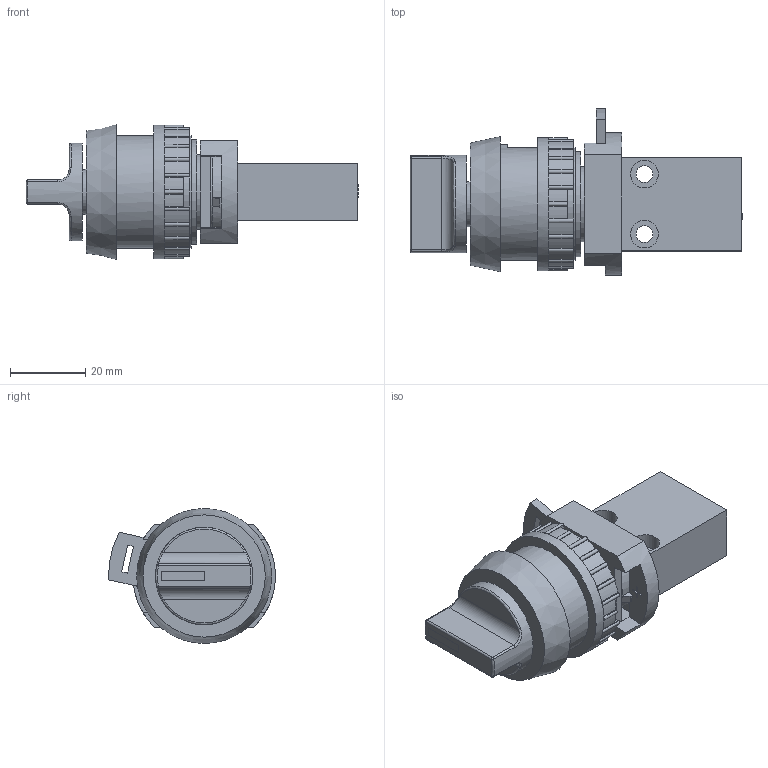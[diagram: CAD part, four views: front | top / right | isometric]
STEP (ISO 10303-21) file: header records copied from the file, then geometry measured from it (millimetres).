
FILE_DESCRIPTION (( 'STEP AP214' ), '1' );
FILE_NAME ('18-T-30-013---T-25-311_Airtec.step', '2018-11-15T13:14:28', ( '' ), ( '' ), 'SwSTEP 2.0', 'SolidWorks 2010', '' );
FILE_SCHEMA (( 'AUTOMOTIVE_DESIGN' ));
Length unit declared in the file: millimetre
Products named in the file (3): 18-T-30-013-Airtec; T-25-311_161206; 18-T-30-013---T-25-311_Airtec
Assembly tree (2 placements, depth 2):
  18-T-30-013---T-25-311_Airtec
    18-T-30-013-Airtec
    T-25-311_161206
Bounding box: 88.5 x 44.48 x 36 mm (x, y, z)
Volume: 46753.3 mm3; surface area: 16834.9 mm2
Topology: 2 solids, 2 shells, 410 faces, 1102 edges, 703 vertices
Faces by surface type: plane 186, cylinder 154, cone 44, torus 13, bspline 12, sphere 1
Full cylindrical faces by diameter (mm): 2.693 x2, 3.2 x2, 4.134 x2, 4.5 x2, 5.7 x2, 6 x1, 7.4 x4, 10 x1, 12 x1, 16 x1, 20 x1, 20.3 x1, 26 x1, 28 x1, 30 x2, 35.5 x1
Entity records: 13605 total; most frequent: CARTESIAN_POINT 3360, DIRECTION 2204, ORIENTED_EDGE 2092, EDGE_CURVE 1046, AXIS2_PLACEMENT_3D 874, VERTEX_POINT 689, EDGE_LOOP 477, CIRCLE 471
